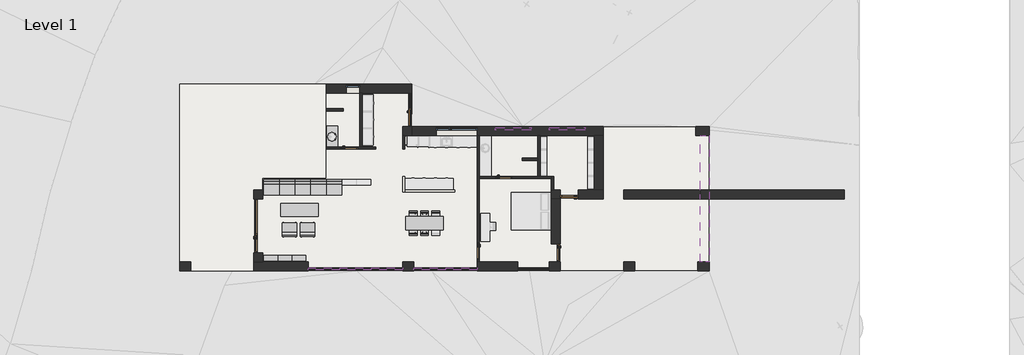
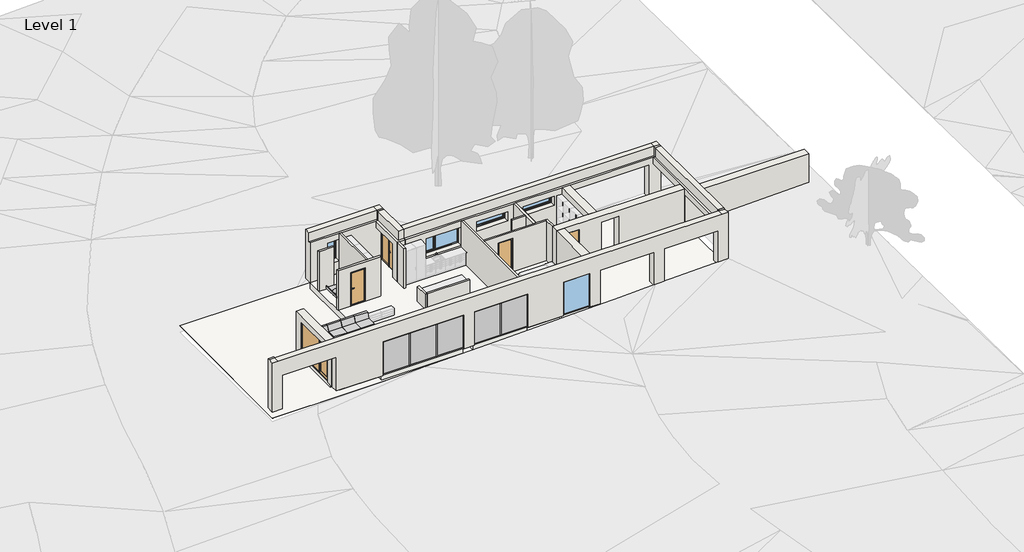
# One storey, part 1 of 2: 21 walls, 18 furniture elements, 17 members, 7 doors, 5 plates, 5 windows, 2 slabs.
"""IFC4 building model written with IfcOpenShell, lengths in millimetres."""

from ifc_helpers import new_model, si_unit, frame, origin, origin_with_axes, place, context, project, spatial, polyline, outline, extrude, faceted_brep, transform, mapped, element, save
from components import door_1800x2200_mm_7a9b0269, ext_door_window_assembly_glass_2880x2200_mm_8e24472b, ext_single_flush_out_glass_960x2200_mm_6190eac3, ext_single_flush1_960x2200_mm_7c25dc53, int_single_flush1_900x2200_mm_083ae047, furniture_c7f23c1d, furniture_56f83323, furniture_641ccf10, furniture_2000_x_700mm_040c55c5, furniture_2000_x_700mm_sofa_1e09125b, furniture_750_x_300_x_450mm_957a72fb, couch_straight_module_couch_straight_module_fcc397ea, vanity_counter_top_w_round_sink_hole_600mm_depth_d806985c, rectangular_mullion_exterior_50x115mm_b31c03e9, rectangular_mullion_exterior_50x115mm_eaa21abb, rectangular_mullion_exterior_50x115mm_593a1a29, system_panel_exterior_glass_22mm_baca3ab9, system_panel_exterior_glass_22mm_266c4f93, fixed_1680x2200_mm_e3bfc0e5, single_light_top_hinged_1920x600_dd11e4f9, single_light_720x1400_mm_50d61ae6, window_assembly_individual_2160x1200_mm_ef5d95c3

model = new_model("IFC4")

# Units and contexts
model_context = context("Model", 3, world=origin())
ifc_project = project(units=[si_unit("LENGTHUNIT", "METRE", prefix="MILLI")], contexts=[model_context])

# Site, building, storey
site = spatial("IfcSite", under=ifc_project)
building = spatial("IfcBuilding", under=site)
storey = spatial("IfcBuildingStorey", under=building, Name="Level 1", Elevation=0.0)

# Doors
placement = place(None, origin())
door_1800x2200_mm_shape = door_1800x2200_mm_7a9b0269(model_context)
element("IfcDoor", 1, ObjectType="Ext. Door inw. Window Assembly : 1800x2200 mm", at=placement, inside=storey, context=model_context, shape_type="MappedRepresentation", body=[
    mapped(door_1800x2200_mm_shape, transform((12120.0, 8580.0, 0.0), x_axis=(0.0, -1.0, 0.0), y_axis=(1.0, 0.0, 0.0), z_axis=(0.0, 0.0, 1.0))),
])
ext_door_window_assembly_glass_2880x2200_mm_shape = ext_door_window_assembly_glass_2880x2200_mm_8e24472b(model_context)
element("IfcDoor", 2, ObjectType="Ext. Door Window Assembly - Glass : 2880x2200 mm", at=placement, inside=storey, context=model_context, shape_type="MappedRepresentation", body=[
    mapped(ext_door_window_assembly_glass_2880x2200_mm_shape, transform((4200.0, 2400.0, 0.0), x_axis=(0.0, -1.0, 0.0), y_axis=(1.0, 0.0, 0.0), z_axis=(0.0, 0.0, 1.0))),
])
ext_single_flush_out_glass_960x2200_mm_shape = ext_single_flush_out_glass_960x2200_mm_6190eac3(model_context)
element("IfcDoor", 3, ObjectType="Ext. Single-Flush out - Glass : 960x2200 mm", at=placement, inside=storey, context=model_context, shape_type="MappedRepresentation", body=[
    mapped(ext_single_flush_out_glass_960x2200_mm_shape, transform((20040.0, 960.0, 0.0), x_axis=(0.0, -1.0, 0.0), y_axis=(1.0, 0.0, 0.0), z_axis=(0.0, 0.0, 1.0))),
])
ext_single_flush1_960x2200_mm_shape = ext_single_flush1_960x2200_mm_7c25dc53(model_context)
element("IfcDoor", 4, ObjectType="Ext. Single-Flush1 : 960x2200 mm", at=placement, inside=storey, context=model_context, shape_type="MappedRepresentation", body=[
    mapped(ext_single_flush1_960x2200_mm_shape, transform((20760.0, 4080.0, 0.0), x_axis=(-1.0, 0.0, 0.0), y_axis=(0.0, -1.0, 0.0), z_axis=(0.0, 0.0, 1.0))),
])
int_single_flush1_900x2200_mm_shape = int_single_flush1_900x2200_mm_083ae047(model_context)
element("IfcDoor", 5, ObjectType="Int. Single-Flush1 : 900x2200 mm", at=placement, inside=storey, context=model_context, shape_type="MappedRepresentation", body=[
    mapped(int_single_flush1_900x2200_mm_shape, transform((9030.0, 6540.0, 0.0), x_axis=(1.0, 0.0, 0.0), y_axis=(0.0, 1.0, 0.0), z_axis=(0.0, 0.0, 1.0))),
])
element("IfcDoor", 6, ObjectType="Int. Single-Flush1 : 900x2200 mm", at=placement, inside=storey, context=model_context, shape_type="MappedRepresentation", body=[
    mapped(int_single_flush1_900x2200_mm_shape, transform((17250.0, 4980.0, 0.0), x_axis=(1.0, 0.0, 0.0), y_axis=(0.0, 1.0, 0.0), z_axis=(0.0, 0.0, 1.0))),
])
element("IfcDoor", 7, ObjectType="Int. Single-Flush1 : 900x2200 mm", at=placement, inside=storey, context=model_context, shape_type="MappedRepresentation", body=[
    mapped(int_single_flush1_900x2200_mm_shape, transform((15900.0, 1050.0, 0.0), x_axis=(0.0, -1.0, 0.0), y_axis=(1.0, 0.0, 0.0), z_axis=(0.0, 0.0, 1.0))),
])

# Furniture
furniture_shape = furniture_c7f23c1d(model_context)
element("IfcFurniture", 8, ObjectType="Armchair - Barcelona : Armchair - Barcelona", at=placement, inside=storey, context=model_context, shape_type="MappedRepresentation", body=[
    mapped(furniture_shape, transform((5860.0, 1780.0, 0.0), x_axis=(-1.0000000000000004, 0.0, 0.0), y_axis=(0.0, -1.0000000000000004, 0.0), z_axis=(0.0, 0.0, 1.0))),
])
element("IfcFurniture", 9, ObjectType="Armchair - Barcelona : Armchair - Barcelona", at=placement, inside=storey, context=model_context, shape_type="MappedRepresentation", body=[
    mapped(furniture_shape, transform((6820.0, 1780.0, 0.0), x_axis=(-1.0, 0.0, 0.0), y_axis=(0.0, -1.0, 0.0), z_axis=(0.0, 0.0, 1.0))),
])
furniture_2_shape = furniture_56f83323(model_context)
element("IfcFurniture", 10, ObjectType="Chair - Allround : Chair - allround", at=placement, inside=storey, context=model_context, shape_type="MappedRepresentation", body=[
    mapped(furniture_2_shape, transform((13040.0, 2890.0, 0.0), x_axis=(1.0, 0.0, 0.0), y_axis=(0.0, 1.0, 0.0), z_axis=(0.0, 0.0, 1.0))),
])
element("IfcFurniture", 11, ObjectType="Chair - Allround : Chair - allround", at=placement, inside=storey, context=model_context, shape_type="MappedRepresentation", body=[
    mapped(furniture_2_shape, transform((12440.0, 2890.0, 0.0), x_axis=(1.0, 0.0, 0.0), y_axis=(0.0, 1.0, 0.0), z_axis=(0.0, 0.0, 1.0))),
])
furniture_3_shape = furniture_641ccf10(model_context)
element("IfcFurniture", 12, ObjectType="Chair - Allround : Chair - allround", at=placement, inside=storey, context=model_context, shape_type="MappedRepresentation", body=[
    mapped(furniture_3_shape, transform((13640.0, 2890.0, 0.0), x_axis=(-1.0, 0.0, 0.0), y_axis=(0.0, -1.0, 0.0), z_axis=(0.0, 0.0, 1.0))),
])
element("IfcFurniture", 13, ObjectType="Chair - Allround : Chair - allround", at=placement, inside=storey, context=model_context, shape_type="MappedRepresentation", body=[
    mapped(furniture_3_shape, transform((13040.0, 2190.0, 0.0), x_axis=(1.0, 0.0, 0.0), y_axis=(0.0, 1.0, 0.0), z_axis=(0.0, 0.0, 1.0))),
])
element("IfcFurniture", 14, ObjectType="Chair - Allround : Chair - allround", at=placement, inside=storey, context=model_context, shape_type="MappedRepresentation", body=[
    mapped(furniture_3_shape, transform((12440.0, 2190.0, 0.0), x_axis=(1.0, 0.0, 0.0), y_axis=(0.0, 1.0, 0.0), z_axis=(0.0, 0.0, 1.0))),
])
furniture_2000_x_700mm_shape = furniture_2000_x_700mm_040c55c5(model_context)
element("IfcFurniture", 15, ObjectType="Table - Allround : 2000 x 700mm", at=placement, inside=storey, context=model_context, shape_type="MappedRepresentation", body=[
    mapped(furniture_2000_x_700mm_shape, transform((13040.0, 2540.0, 0.0), x_axis=(1.0, 0.0, 0.0), y_axis=(0.0, 1.0, 0.0), z_axis=(0.0, 0.0, 1.0))),
])
furniture_2000_x_700mm_sofa_shape = furniture_2000_x_700mm_sofa_1e09125b(model_context)
element("IfcFurniture", 16, ObjectType="Table - Allround : 2000 x 700mm Sofa", at=placement, inside=storey, context=model_context, shape_type="MappedRepresentation", body=[
    mapped(furniture_2000_x_700mm_sofa_shape, transform((6380.0, 3240.0, 0.0), x_axis=(1.0, 0.0, 0.0), y_axis=(0.0, 1.0, 0.0), z_axis=(0.0, 0.0, 1.0))),
])
furniture_750_x_300_x_450mm_shape = furniture_750_x_300_x_450mm_957a72fb(model_context)
element("IfcFurniture", 17, ObjectType="Shelving (Floor) - Allround : 750 x 300 x 450mm", at=placement, inside=storey, context=model_context, shape_type="MappedRepresentation", body=[
    mapped(furniture_750_x_300_x_450mm_shape, transform((4855.0, 974.8, 0.0), x_axis=(1.0, 0.0, 0.0), y_axis=(0.0, 1.0, 0.0), z_axis=(0.0, 0.0, 1.0))),
])
element("IfcFurniture", 18, ObjectType="Shelving (Floor) - Allround : 750 x 300 x 450mm", at=placement, inside=storey, context=model_context, shape_type="MappedRepresentation", body=[
    mapped(furniture_750_x_300_x_450mm_shape, transform((5605.0, 974.8, 0.0), x_axis=(1.0, 0.0, 0.0), y_axis=(0.0, 1.0, 0.0), z_axis=(0.0, 0.0, 1.0))),
])
element("IfcFurniture", 19, ObjectType="Shelving (Floor) - Allround : 750 x 300 x 450mm", at=placement, inside=storey, context=model_context, shape_type="MappedRepresentation", body=[
    mapped(furniture_750_x_300_x_450mm_shape, transform((6355.0, 974.8, 0.0), x_axis=(1.0, 0.0, 0.0), y_axis=(0.0, 1.0, 0.0), z_axis=(0.0, 0.0, 1.0))),
])
couch_straight_module_couch_straight_module_shape = couch_straight_module_couch_straight_module_fcc397ea(model_context)
element("IfcFurniture", 20, ObjectType="Couch - Straight Module : Couch straight module", at=placement, inside=storey, context=model_context, shape_type="MappedRepresentation", body=[
    mapped(couch_straight_module_couch_straight_module_shape, transform((4480.0, 4050.0, 0.0), x_axis=(1.0, 0.0, 0.0), y_axis=(0.0, 1.0, 0.0), z_axis=(0.0, 0.0, 1.0))),
])
element("IfcFurniture", 21, ObjectType="Couch - Straight Module : Couch straight module", at=placement, inside=storey, context=model_context, shape_type="MappedRepresentation", body=[
    mapped(couch_straight_module_couch_straight_module_shape, transform((5310.0, 4050.0, 0.0), x_axis=(1.0, 0.0, 0.0), y_axis=(0.0, 1.0, 0.0), z_axis=(0.0, 0.0, 1.0))),
])
element("IfcFurniture", 22, ObjectType="Couch - Straight Module : Couch straight module", at=placement, inside=storey, context=model_context, shape_type="MappedRepresentation", body=[
    mapped(couch_straight_module_couch_straight_module_shape, transform((6140.0, 4050.0, 0.0), x_axis=(1.0, 0.0, 0.0), y_axis=(0.0, 1.0, 0.0), z_axis=(0.0, 0.0, 1.0))),
])
element("IfcFurniture", 23, ObjectType="Couch - Straight Module : Couch straight module", at=placement, inside=storey, context=model_context, shape_type="MappedRepresentation", body=[
    mapped(couch_straight_module_couch_straight_module_shape, transform((6970.0, 4050.0, 0.0), x_axis=(1.0, 0.0, 0.0), y_axis=(0.0, 1.0, 0.0), z_axis=(0.0, 0.0, 1.0))),
])
element("IfcFurniture", 24, ObjectType="Couch - Straight Module : Couch straight module", at=placement, inside=storey, context=model_context, shape_type="MappedRepresentation", body=[
    mapped(couch_straight_module_couch_straight_module_shape, transform((7800.0, 4050.0, 0.0), x_axis=(1.0, 0.0, 0.0), y_axis=(0.0, 1.0, 0.0), z_axis=(0.0, 0.0, 1.0))),
])
vanity_counter_top_w_round_sink_hole_600mm_depth_shape = vanity_counter_top_w_round_sink_hole_600mm_depth_d806985c(model_context)
element("IfcFurniture", 25, ObjectType="Vanity Counter Top w. Round Sink Hole : 600mm Depth", at=placement, inside=storey, context=model_context, shape_type="MappedRepresentation", body=[
    mapped(vanity_counter_top_w_round_sink_hole_600mm_depth_shape, transform((7800.0, 7927.4622951, 0.0), x_axis=(0.0, 1.0000000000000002, 0.0), y_axis=(-1.0000000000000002, 0.0, 0.0), z_axis=(0.0, 0.0, 1.0))),
])

# Members
rectangular_mullion_exterior_50x115mm_shape = rectangular_mullion_exterior_50x115mm_b31c03e9(model_context)
element("IfcMember", 26, ObjectType="Rectangular Mullion : Exterior - 50x115mm", at=placement, inside=storey, context=model_context, shape_type="MappedRepresentation", body=[
    mapped(rectangular_mullion_exterior_50x115mm_shape, transform((6840.0, 50.0, 2200.0), x_axis=(0.0, 0.0, 1.0), y_axis=(0.0, 1.0, 0.0), z_axis=(-1.0, 0.0, 0.0))),
])
element("IfcMember", 27, ObjectType="Rectangular Mullion : Exterior - 50x115mm", at=placement, inside=storey, context=model_context, shape_type="MappedRepresentation", body=[
    mapped(rectangular_mullion_exterior_50x115mm_shape, transform((12480.0, 50.0, 2200.0), x_axis=(0.0, 0.0, 1.0), y_axis=(0.0, 1.0, 0.0), z_axis=(-1.0, 0.0, 0.0))),
])
element("IfcMember", 28, ObjectType="Rectangular Mullion : Exterior - 50x115mm", at=placement, inside=storey, context=model_context, shape_type="MappedRepresentation", body=[
    mapped(rectangular_mullion_exterior_50x115mm_shape, transform((11880.0, 50.0, 0.0), x_axis=(0.0, 0.0, -1.0), y_axis=(0.0, 1.0, 0.0), z_axis=(1.0, 0.0, 0.0))),
])
element("IfcMember", 29, ObjectType="Rectangular Mullion : Exterior - 50x115mm", at=placement, inside=storey, context=model_context, shape_type="MappedRepresentation", body=[
    mapped(rectangular_mullion_exterior_50x115mm_shape, transform((15840.0, 50.0, 0.0), x_axis=(0.0, 0.0, -1.0), y_axis=(0.0, 1.0, 0.0), z_axis=(1.0, 0.0, 0.0))),
])
rectangular_mullion_exterior_50x115mm_2_shape = rectangular_mullion_exterior_50x115mm_eaa21abb(model_context)
element("IfcMember", 30, ObjectType="Rectangular Mullion : Exterior - 50x115mm", at=placement, inside=storey, context=model_context, shape_type="MappedRepresentation", body=[
    mapped(rectangular_mullion_exterior_50x115mm_2_shape, transform((8520.0, 50.0, 50.0), x_axis=(-1.0, 0.0, 0.0), y_axis=(0.0, 1.0, 0.0), z_axis=(0.0, 0.0, -1.0))),
])
element("IfcMember", 31, ObjectType="Rectangular Mullion : Exterior - 50x115mm", at=placement, inside=storey, context=model_context, shape_type="MappedRepresentation", body=[
    mapped(rectangular_mullion_exterior_50x115mm_2_shape, transform((10200.0, 50.0, 50.0), x_axis=(-1.0, 0.0, 0.0), y_axis=(0.0, 1.0, 0.0), z_axis=(0.0, 0.0, -1.0))),
])
element("IfcMember", 32, ObjectType="Rectangular Mullion : Exterior - 50x115mm", at=placement, inside=storey, context=model_context, shape_type="MappedRepresentation", body=[
    mapped(rectangular_mullion_exterior_50x115mm_2_shape, transform((14160.0, 50.0, 50.0), x_axis=(-1.0, 0.0, 0.0), y_axis=(0.0, 1.0, 0.0), z_axis=(0.0, 0.0, -1.0))),
])
element("IfcMember", 33, ObjectType="Rectangular Mullion : Exterior - 50x115mm", at=placement, inside=storey, context=model_context, shape_type="MappedRepresentation", body=[
    mapped(rectangular_mullion_exterior_50x115mm_shape, transform((8520.0, 50.0, 0.0), x_axis=(0.0, 0.0, -1.0), y_axis=(0.0, 1.0, 0.0), z_axis=(1.0, 0.0, 0.0))),
])
element("IfcMember", 34, ObjectType="Rectangular Mullion : Exterior - 50x115mm", at=placement, inside=storey, context=model_context, shape_type="MappedRepresentation", body=[
    mapped(rectangular_mullion_exterior_50x115mm_shape, transform((14160.0, 50.0, 0.0), x_axis=(0.0, 0.0, -1.0), y_axis=(0.0, 1.0, 0.0), z_axis=(1.0, 0.0, 0.0))),
])
element("IfcMember", 35, ObjectType="Rectangular Mullion : Exterior - 50x115mm", at=placement, inside=storey, context=model_context, shape_type="MappedRepresentation", body=[
    mapped(rectangular_mullion_exterior_50x115mm_shape, transform((10200.0, 50.0, 0.0), x_axis=(0.0, 0.0, -1.0), y_axis=(0.0, 1.0, 0.0), z_axis=(1.0, 0.0, 0.0))),
])
element("IfcMember", 36, ObjectType="Rectangular Mullion : Exterior - 50x115mm", at=placement, inside=storey, context=model_context, shape_type="MappedRepresentation", body=[
    mapped(rectangular_mullion_exterior_50x115mm_shape, transform((8520.0, 50.0, 2200.0), x_axis=(0.0, 0.0, 1.0), y_axis=(0.0, 1.0, 0.0), z_axis=(-1.0, 0.0, 0.0))),
])
element("IfcMember", 37, ObjectType="Rectangular Mullion : Exterior - 50x115mm", at=placement, inside=storey, context=model_context, shape_type="MappedRepresentation", body=[
    mapped(rectangular_mullion_exterior_50x115mm_shape, transform((10200.0, 50.0, 2200.0), x_axis=(0.0, 0.0, 1.0), y_axis=(0.0, 1.0, 0.0), z_axis=(-1.0, 0.0, 0.0))),
])
element("IfcMember", 38, ObjectType="Rectangular Mullion : Exterior - 50x115mm", at=placement, inside=storey, context=model_context, shape_type="MappedRepresentation", body=[
    mapped(rectangular_mullion_exterior_50x115mm_shape, transform((14160.0, 50.0, 2200.0), x_axis=(0.0, 0.0, 1.0), y_axis=(0.0, 1.0, 0.0), z_axis=(-1.0, 0.0, 0.0))),
])
rectangular_mullion_exterior_50x115mm_3_shape = rectangular_mullion_exterior_50x115mm_593a1a29(model_context)
element("IfcMember", 39, ObjectType="Rectangular Mullion : Exterior - 50x115mm", at=placement, inside=storey, context=model_context, shape_type="MappedRepresentation", body=[
    mapped(rectangular_mullion_exterior_50x115mm_3_shape, transform((11880.0, 50.0, 2150.0), x_axis=(1.0, 0.0, 0.0), y_axis=(0.0, 1.0, 0.0), z_axis=(0.0, 0.0, 1.0))),
])
element("IfcMember", 40, ObjectType="Rectangular Mullion : Exterior - 50x115mm", at=placement, inside=storey, context=model_context, shape_type="MappedRepresentation", body=[
    mapped(rectangular_mullion_exterior_50x115mm_3_shape, transform((15840.0, 50.0, 2150.0), x_axis=(1.0, 0.0, 0.0), y_axis=(0.0, 1.0, 0.0), z_axis=(0.0, 0.0, 1.0))),
])
element("IfcMember", 41, ObjectType="Rectangular Mullion : Exterior - 50x115mm", at=placement, inside=storey, context=model_context, shape_type="MappedRepresentation", body=[
    mapped(rectangular_mullion_exterior_50x115mm_3_shape, transform((6840.0, 50.0, 50.0), x_axis=(-1.0, 0.0, 0.0), y_axis=(0.0, 1.0, 0.0), z_axis=(0.0, 0.0, -1.0))),
])
element("IfcMember", 42, ObjectType="Rectangular Mullion : Exterior - 50x115mm", at=placement, inside=storey, context=model_context, shape_type="MappedRepresentation", body=[
    mapped(rectangular_mullion_exterior_50x115mm_3_shape, transform((12480.0, 50.0, 50.0), x_axis=(-1.0, 0.0, 0.0), y_axis=(0.0, 1.0, 0.0), z_axis=(0.0, 0.0, -1.0))),
])

# Plates
system_panel_exterior_glass_22mm_shape = system_panel_exterior_glass_22mm_baca3ab9(model_context)
element("IfcPlate", 43, ObjectType="System Panel : Exterior - Glass 22mm", at=placement, inside=storey, context=model_context, shape_type="MappedRepresentation", body=[
    mapped(system_panel_exterior_glass_22mm_shape, transform((11027.5, 50.0, 50.0), x_axis=(-1.0, 0.0, 0.0), y_axis=(0.0, -1.0, 0.0), z_axis=(0.0, 0.0, 1.0))),
])
element("IfcPlate", 44, ObjectType="System Panel : Exterior - Glass 22mm", at=placement, inside=storey, context=model_context, shape_type="MappedRepresentation", body=[
    mapped(system_panel_exterior_glass_22mm_shape, transform((7692.5, 50.0, 50.0), x_axis=(-1.0, 0.0, 0.0), y_axis=(0.0, -1.0, 0.0), z_axis=(0.0, 0.0, 1.0))),
])
element("IfcPlate", 45, ObjectType="System Panel : Exterior - Glass 22mm", at=placement, inside=storey, context=model_context, shape_type="MappedRepresentation", body=[
    mapped(system_panel_exterior_glass_22mm_shape, transform((14987.5, 50.0, 50.0), x_axis=(-1.0, 0.0, 0.0), y_axis=(0.0, -1.0, 0.0), z_axis=(0.0, 0.0, 1.0))),
])
element("IfcPlate", 46, ObjectType="System Panel : Exterior - Glass 22mm", at=placement, inside=storey, context=model_context, shape_type="MappedRepresentation", body=[
    mapped(system_panel_exterior_glass_22mm_shape, transform((13332.5, 50.0, 50.0), x_axis=(-1.0, 0.0, 0.0), y_axis=(0.0, -1.0, 0.0), z_axis=(0.0, 0.0, 1.0))),
])
system_panel_exterior_glass_22mm_2_shape = system_panel_exterior_glass_22mm_266c4f93(model_context)
element("IfcPlate", 47, ObjectType="System Panel : Exterior - Glass 22mm", at=placement, inside=storey, context=model_context, shape_type="MappedRepresentation", body=[
    mapped(system_panel_exterior_glass_22mm_2_shape, transform((9360.0, 50.0, 50.0), x_axis=(-1.0, 0.0, 0.0), y_axis=(0.0, -1.0, 0.0), z_axis=(0.0, 0.0, 1.0))),
])

# Slabs
element("IfcSlab", 48, ObjectType="Generic - 400mm (Ground)", at=placement, inside=storey, context=model_context, shape_type="SweptSolid", body=[
    extrude(outline(polyline([(12195.0, 9480.0), (12195.0, 7680.0), (11880.0, 7680.0), (11880.0, 7200.0), (22080.0, 7200.0), (22080.0, 4320.0), (21240.0, 4320.0), (21240.0, 4005.0), (20280.0, 4005.0), (20280.0, 4320.0), (19800.0, 4320.0), (19800.0, 1440.0), (20115.0, 1440.0), (20115.0, 480.0), (19680.0, 480.0), (19680.0, 165.0), (18000.0, 165.0), (18000.0, 480.0), (15840.0, 480.0), (15840.0, 165.0), (12480.0, 165.0), (12480.0, 480.0), (11880.0, 480.0), (11880.0, 165.0), (6840.0, 165.0), (6840.0, 480.0), (4440.0, 480.0), (4440.0, 960.0), (4125.0, 960.0), (4125.0, 3840.0), (4440.0, 3840.0), (4440.0, 4920.0), (7800.0, 4920.0), (7800.0, 9480.0), (12195.0, 9480.0)])), frame((0.0, 0.0, -400.0), z_axis=(0.0, 0.0, 1.0), x_axis=(1.0, 0.0, 0.0)), (0.0, 0.0, 1.0), 400.0),
])
element("IfcSlab", 49, ObjectType="Generic Pad - 2mm", at=placement, inside=storey, context=model_context, shape_type="SweptSolid", body=[
    extrude(outline(polyline([(12360.0, 9960.0), (12360.0, 7680.0), (28200.0, 7680.0), (28200.0, 4320.0), (35400.0, 4320.0), (35400.0, 3840.0), (28200.0, 3840.0), (28200.0, 0.0), (0.0, 0.0), (0.0, 9960.0), (12360.0, 9960.0)])), frame((0.0, 0.0, -400.0), z_axis=(0.0, 0.0, 1.0), x_axis=(1.0, 0.0, 0.0)), (0.0, 0.0, 1.0), 2.0),
])

# Walls
element("IfcWall", 50, ObjectType="Generic - 120mm (Interior)", at=placement, inside=storey, context=model_context, shape_type="Brep", body=[
    faceted_brep([(9720.0, 6600.0, 0.0), (9720.0, 9480.0, 0.0), (9720.0, 9480.0, 2600.0), (9720.0, 6600.0, 2600.0), (9600.0, 6600.0, 0.0), (9600.0, 6600.0, 2600.0), (9600.0, 9480.0, 2600.0), (9600.0, 9480.0, 2200.0), (9600.0, 9480.0, 800.0), (9600.0, 9480.0, 0.0)], [[[0, 1, 2, 3]], [[4, 5, 6, 7, 8, 9]], [[1, 0, 4, 9]], [[0, 3, 5, 4]], [[2, 1, 9, 8, 7, 6]], [[3, 2, 6, 5]]]),
])
element("IfcWall", 51, ObjectType="Generic - 120mm (Interior)", at=placement, inside=storey, context=model_context, shape_type="Brep", body=[
    faceted_brep([(15960.0, 7200.0, 0.0), (15960.0, 7200.0, 2600.0), (15960.0, 5040.0, 2600.0), (15960.0, 4920.0, 2600.0), (15960.0, 480.0, 2600.0), (15960.0, 480.0, 0.0), (15960.0, 600.0, 0.0), (15960.0, 600.0, 2200.0), (15960.0, 1500.0, 2200.0), (15960.0, 1500.0, 0.0), (15960.0, 4920.0, 0.0), (15960.0, 5040.0, 0.0), (15840.0, 7200.0, 2600.0), (15840.0, 7200.0, 2200.0), (15840.0, 7200.0, 1000.0), (15840.0, 7200.0, 0.0), (15840.0, 1500.0, 0.0), (15840.0, 1500.0, 2200.0), (15840.0, 600.0, 2200.0), (15840.0, 600.0, 0.0), (15840.0, 480.0, 0.0), (15840.0, 480.0, 2200.0), (15840.0, 480.0, 2600.0)], [[[0, 1, 2, 3, 4, 5, 6, 7, 8, 9, 10, 11]], [[12, 13, 14, 15, 16, 17, 18, 19, 20, 21, 22]], [[5, 20, 19, 6]], [[15, 0, 11, 10, 9, 16]], [[1, 0, 15, 14, 13, 12]], [[5, 4, 22, 21, 20]], [[18, 7, 6, 19]], [[7, 18, 17, 8]], [[8, 17, 16, 9]], [[4, 3, 2, 1, 12, 22]]]),
])
element("IfcWall", 52, ObjectType="Generic - 120mm (Interior)", at=placement, inside=storey, context=model_context, shape_type="Brep", body=[
    faceted_brep([(19920.0, 4320.0, 0.0), (19920.0, 5040.0, 0.0), (19920.0, 5040.0, 2600.0), (19920.0, 4320.0, 2600.0), (19800.0, 4320.0, 0.0), (19800.0, 4320.0, 2600.0), (19800.0, 4920.0, 2600.0), (19800.0, 5040.0, 2600.0), (19800.0, 5040.0, 0.0), (19800.0, 4920.0, 0.0)], [[[0, 1, 2, 3]], [[4, 5, 6, 7, 8, 9]], [[1, 0, 4, 9, 8]], [[2, 1, 8, 7]], [[0, 3, 5, 4]], [[3, 2, 7, 6, 5]]]),
])
element("IfcWall", 53, ObjectType="Generic - 120mm (Interior)", at=placement, inside=storey, context=model_context, shape_type="Brep", body=[
    faceted_brep([(19800.0, 5040.0, 2600.0), (19800.0, 5040.0, 0.0), (19200.0, 5040.0, 0.0), (19080.0, 5040.0, 0.0), (17700.0, 5040.0, 0.0), (17700.0, 5040.0, 2200.0), (16800.0, 5040.0, 2200.0), (16800.0, 5040.0, 0.0), (15960.0, 5040.0, 0.0), (15960.0, 5040.0, 2600.0), (19080.0, 5040.0, 2600.0), (19200.0, 5040.0, 2600.0), (19800.0, 4920.0, 0.0), (19800.0, 4920.0, 2600.0), (15960.0, 4920.0, 2600.0), (15960.0, 4920.0, 0.0), (16800.0, 4920.0, 0.0), (16800.0, 4920.0, 2200.0), (17700.0, 4920.0, 2200.0), (17700.0, 4920.0, 0.0)], [[[0, 1, 2, 3, 4, 5, 6, 7, 8, 9, 10, 11]], [[12, 13, 14, 15, 16, 17, 18, 19]], [[1, 12, 19, 4, 3, 2]], [[15, 8, 7, 16]], [[1, 0, 13, 12]], [[9, 8, 15, 14]], [[18, 5, 4, 19]], [[5, 18, 17, 6]], [[6, 17, 16, 7]], [[0, 11, 10, 9, 14, 13]]]),
])
element("IfcWall", 54, ObjectType="Generic - 120mm (Interior)", at=placement, inside=storey, context=model_context, shape_type="Brep", body=[
    faceted_brep([(19200.0, 5040.0, 0.0), (19200.0, 7200.0, 0.0), (19200.0, 7200.0, 2600.0), (19200.0, 5040.0, 2600.0), (19080.0, 5040.0, 0.0), (19080.0, 5040.0, 2600.0), (19080.0, 5880.0, 2600.0), (19080.0, 6000.0, 2600.0), (19080.0, 7200.0, 2600.0), (19080.0, 7200.0, 0.0), (19080.0, 6000.0, 0.0), (19080.0, 5880.0, 0.0)], [[[0, 1, 2, 3]], [[4, 5, 6, 7, 8, 9, 10, 11]], [[1, 0, 4, 11, 10, 9]], [[0, 3, 5, 4]], [[2, 1, 9, 8]], [[3, 2, 8, 7, 6, 5]]]),
])
element("IfcWall", 55, ObjectType="Generic - 120mm (Interior)", at=placement, inside=storey, context=model_context, shape_type="SweptSolid", body=[
    extrude(outline(polyline([(18240.0, 6000.0), (19080.0, 6000.0), (19080.0, 5880.0), (18240.0, 5880.0), (18240.0, 6000.0)])), origin_with_axes(), (0.0, 0.0, 1.0), 2600.0),
])
element("IfcWall", 56, ObjectType="Generic - 120mm (Interior)", at=placement, inside=storey, context=model_context, shape_type="SweptSolid", body=[
    extrude(outline(polyline([(8720.0, 8520.0), (7800.0, 8520.0), (7800.0, 8640.0), (8720.0, 8640.0), (8720.0, 8520.0)])), origin_with_axes(), (0.0, 0.0, 1.0), 2600.0),
])
element("IfcWall", 57, ObjectType="Generic - 120mm (Interior)", at=placement, inside=storey, context=model_context, shape_type="Brep", body=[
    faceted_brep([(11880.0, 5040.0, 0.0), (11880.0, 4200.0, 0.0), (11880.0, 4200.0, 1000.0), (11880.0, 5040.0, 1000.0), (12000.0, 5040.0, 0.0), (12000.0, 5040.0, 1000.0), (12000.0, 4320.0, 1000.0), (12000.0, 4200.0, 1000.0), (12000.0, 4200.0, 0.0), (12000.0, 4320.0, 0.0)], [[[0, 1, 2, 3]], [[4, 5, 6, 7, 8, 9]], [[1, 0, 4, 9, 8]], [[3, 2, 7, 6, 5]], [[0, 3, 5, 4]], [[2, 1, 8, 7]]]),
])
element("IfcWall", 58, ObjectType="Generic - 120mm (Interior)", at=placement, inside=storey, context=model_context, shape_type="SweptSolid", body=[
    extrude(outline(polyline([(14640.0, 4200.0), (12000.0, 4200.0), (12000.0, 4320.0), (14640.0, 4320.0), (14640.0, 4200.0)])), origin_with_axes(), (0.0, 0.0, 1.0), 1000.0),
])
element("IfcWall", 59, ObjectType="Generic - 120mm (Interior)", at=placement, inside=storey, context=model_context, shape_type="SweptSolid", body=[
    extrude(outline(polyline([(11880.0, 6480.0), (11880.0, 7200.0), (12000.0, 7200.0), (12000.0, 6480.0), (11880.0, 6480.0)])), origin_with_axes(), (0.0, 0.0, 1.0), 2600.0),
])
element("IfcWall", 60, ObjectType="Generic - 120mm (Interior)", at=placement, inside=storey, context=model_context, shape_type="Brep", body=[
    faceted_brep([(10440.0, 6480.0, 0.0), (10440.0, 6480.0, 2600.0), (7800.0, 6480.0, 2600.0), (7800.0, 6480.0, 0.0), (8580.0, 6480.0, 0.0), (8580.0, 6480.0, 2200.0), (9480.0, 6480.0, 2200.0), (9480.0, 6480.0, 0.0), (10440.0, 6600.0, 2600.0), (10440.0, 6600.0, 0.0), (9720.0, 6600.0, 0.0), (9600.0, 6600.0, 0.0), (9480.0, 6600.0, 0.0), (9480.0, 6600.0, 2200.0), (8580.0, 6600.0, 2200.0), (8580.0, 6600.0, 0.0), (7800.0, 6600.0, 0.0), (7800.0, 6600.0, 2600.0), (9600.0, 6600.0, 2600.0), (9720.0, 6600.0, 2600.0)], [[[0, 1, 2, 3, 4, 5, 6, 7]], [[8, 9, 10, 11, 12, 13, 14, 15, 16, 17, 18, 19]], [[9, 0, 7, 12, 11, 10]], [[3, 16, 15, 4]], [[1, 0, 9, 8]], [[2, 1, 8, 19, 18, 17]], [[6, 13, 12, 7]], [[13, 6, 5, 14]], [[14, 5, 4, 15]], [[3, 2, 17, 16]]]),
])
element("IfcWall", 61, ObjectType="Generic - 480mm (Exterior)", at=placement, inside=storey, context=model_context, shape_type="Brep", body=[
    faceted_brep([(11880.0, 7200.0, 0.0), (11880.0, 7200.0, 2600.0), (11880.0, 9480.0, 2600.0), (11880.0, 9480.0, 2200.0), (11880.0, 7680.0, 2200.0), (11880.0, 7680.0, 0.0), (12360.0, 7200.0, 2600.0), (12360.0, 7200.0, 0.0), (12360.0, 7680.0, 0.0), (12360.0, 7680.0, 2200.0), (12360.0, 9480.0, 2200.0), (12360.0, 9480.0, 3200.0), (12360.0, 7680.0, 3200.0), (12360.0, 7320.0, 3200.0), (12360.0, 7320.0, 2600.0), (12000.0, 9480.0, 3200.0), (12000.0, 9480.0, 2600.0), (12000.0, 7200.0, 2600.0), (12000.0, 7320.0, 2600.0), (12000.0, 7320.0, 3200.0)], [[[0, 1, 2, 3, 4, 5]], [[6, 7, 8, 9, 10, 11, 12, 13, 14]], [[7, 0, 5, 8]], [[15, 11, 10, 3, 2, 16]], [[4, 9, 8, 5]], [[9, 4, 3, 10]], [[1, 0, 7, 6, 17]], [[15, 16, 18, 19]], [[11, 15, 19, 13, 12]], [[13, 19, 18, 14]], [[16, 2, 1, 17, 6, 14, 18]]]),
])
element("IfcWall", 62, ObjectType="Generic - 480mm (Exterior)", at=placement, inside=storey, context=model_context, shape_type="Brep", body=[
    faceted_brep([(12360.0, 7200.0, 0.0), (15840.0, 7200.0, 0.0), (15960.0, 7200.0, 0.0), (19080.0, 7200.0, 0.0), (19200.0, 7200.0, 0.0), (22080.0, 7200.0, 0.0), (22560.0, 7200.0, 0.0), (22560.0, 7200.0, 2200.0), (27480.0, 7200.0, 2200.0), (27480.0, 7200.0, 0.0), (28200.0, 7200.0, 0.0), (28200.0, 7200.0, 2200.0), (28200.0, 7200.0, 3200.0), (27840.0, 7200.0, 3200.0), (27840.0, 7200.0, 2600.0), (27720.0, 7200.0, 2600.0), (22560.0, 7200.0, 2600.0), (22080.0, 7200.0, 2600.0), (19200.0, 7200.0, 2600.0), (19080.0, 7200.0, 2600.0), (15960.0, 7200.0, 2600.0), (15840.0, 7200.0, 2600.0), (12360.0, 7200.0, 2600.0), (19680.0, 7200.0, 1600.0), (19680.0, 7200.0, 2200.0), (21600.0, 7200.0, 2200.0), (21600.0, 7200.0, 1600.0), (16800.0, 7200.0, 1600.0), (16800.0, 7200.0, 2200.0), (18720.0, 7200.0, 2200.0), (18720.0, 7200.0, 1600.0), (15840.0, 7200.0, 1000.0), (13680.0, 7200.0, 1000.0), (13680.0, 7200.0, 2200.0), (15840.0, 7200.0, 2200.0), (12360.0, 7680.0, 0.0), (12360.0, 7680.0, 2200.0), (12360.0, 7680.0, 3200.0), (27840.0, 7680.0, 3200.0), (28200.0, 7680.0, 3200.0), (28200.0, 7680.0, 0.0), (27480.0, 7680.0, 0.0), (27480.0, 7680.0, 2200.0), (22560.0, 7680.0, 2200.0), (22560.0, 7680.0, 0.0), (19680.0, 7680.0, 1600.0), (21600.0, 7680.0, 1600.0), (21600.0, 7680.0, 2200.0), (19680.0, 7680.0, 2200.0), (16800.0, 7680.0, 1600.0), (18720.0, 7680.0, 1600.0), (18720.0, 7680.0, 2200.0), (16800.0, 7680.0, 2200.0), (15840.0, 7680.0, 1000.0), (15840.0, 7680.0, 2200.0), (13680.0, 7680.0, 2200.0), (13680.0, 7680.0, 1000.0), (28200.0, 7320.0, 3200.0), (12360.0, 7320.0, 2600.0), (12360.0, 7320.0, 3200.0), (27840.0, 7320.0, 3200.0), (27840.0, 7320.0, 2600.0)], [[[0, 1, 2, 3, 4, 5, 6, 7, 8, 9, 10, 11, 12, 13, 14, 15, 16, 17, 18, 19, 20, 21, 22], [23, 24, 25, 26], [27, 28, 29, 30], [31, 32, 33, 34]], [[35, 36, 37, 38, 39, 40, 41, 42, 43, 44], [45, 46, 47, 48], [49, 50, 51, 52], [53, 54, 55, 56]], [[12, 11, 10, 40, 39, 57]], [[24, 23, 45, 48]], [[25, 24, 48, 47]], [[26, 25, 47, 46]], [[23, 26, 46, 45]], [[28, 27, 49, 52]], [[29, 28, 52, 51]], [[30, 29, 51, 50]], [[27, 30, 50, 49]], [[54, 53, 31, 34]], [[55, 54, 34, 33]], [[56, 55, 33, 32]], [[53, 56, 32, 31]], [[6, 5, 4, 3, 2, 1, 0, 35, 44]], [[8, 7, 43, 42]], [[9, 8, 42, 41]], [[10, 9, 41, 40]], [[7, 6, 44, 43]], [[0, 22, 58, 59, 37, 36, 35]], [[60, 59, 58, 61]], [[13, 12, 57, 60]], [[13, 60, 61, 14]], [[38, 37, 59, 60]], [[57, 39, 38, 60]], [[22, 21, 20, 19, 18, 17, 16, 15, 14, 61, 58]]]),
])
element("IfcWall", 63, ObjectType="Generic - 480mm (Exterior)", at=placement, inside=storey, context=model_context, shape_type="Brep", body=[
    faceted_brep([(27720.0, 7200.0, 2200.0), (27720.0, 480.0, 2200.0), (27720.0, 480.0, 2600.0), (27720.0, 3840.0, 2600.0), (27720.0, 4320.0, 2600.0), (27720.0, 7200.0, 2600.0), (28200.0, 7200.0, 2200.0), (28200.0, 7200.0, 3200.0), (28200.0, 480.0, 3200.0), (28200.0, 480.0, 2200.0), (27840.0, 7200.0, 2600.0), (27840.0, 7200.0, 3200.0), (27840.0, 480.0, 3200.0), (27840.0, 480.0, 2600.0)], [[[0, 1, 2, 3, 4, 5]], [[6, 7, 8, 9]], [[1, 0, 6, 9]], [[0, 5, 10, 11, 7, 6]], [[2, 1, 9, 8, 12, 13]], [[12, 8, 7, 11]], [[12, 11, 10, 13]], [[5, 4, 3, 2, 13, 10]]]),
])
element("IfcWall", 64, ObjectType="Generic - 480mm (Exterior)", at=placement, inside=storey, context=model_context, shape_type="Brep", body=[
    faceted_brep([(28200.0, 480.0, 0.0), (27600.0, 480.0, 0.0), (27600.0, 480.0, 2200.0), (24240.0, 480.0, 2200.0), (24240.0, 480.0, 0.0), (23640.0, 480.0, 0.0), (23640.0, 480.0, 2200.0), (20280.0, 480.0, 2200.0), (20280.0, 480.0, 0.0), (19680.0, 480.0, 0.0), (19680.0, 480.0, 2200.0), (18000.0, 480.0, 2200.0), (18000.0, 480.0, 0.0), (15960.0, 480.0, 0.0), (15840.0, 480.0, 0.0), (15840.0, 480.0, 2200.0), (12480.0, 480.0, 2200.0), (12480.0, 480.0, 0.0), (11880.0, 480.0, 0.0), (11880.0, 480.0, 2200.0), (6840.0, 480.0, 2200.0), (6840.0, 480.0, 0.0), (4440.0, 480.0, 0.0), (3960.0, 480.0, 0.0), (3960.0, 480.0, 2200.0), (600.0, 480.0, 2200.0), (600.0, 480.0, 0.0), (0.0, 480.0, 0.0), (0.0, 480.0, 2200.0), (0.0, 480.0, 3200.0), (360.0, 480.0, 3200.0), (360.0, 480.0, 2600.0), (480.0, 480.0, 2600.0), (3960.0, 480.0, 2600.0), (4440.0, 480.0, 2600.0), (15840.0, 480.0, 2600.0), (15960.0, 480.0, 2600.0), (19800.0, 480.0, 2600.0), (20280.0, 480.0, 2600.0), (27720.0, 480.0, 2600.0), (27840.0, 480.0, 2600.0), (27840.0, 480.0, 3200.0), (28200.0, 480.0, 3200.0), (28200.0, 480.0, 2200.0), (27600.0, 0.0, 0.0), (28200.0, 0.0, 0.0), (28200.0, 0.0, 3200.0), (27840.0, 0.0, 3200.0), (360.0, 0.0, 3200.0), (0.0, 0.0, 3200.0), (0.0, 0.0, 0.0), (600.0, 0.0, 0.0), (600.0, 0.0, 2200.0), (3960.0, 0.0, 2200.0), (3960.0, 0.0, 0.0), (6840.0, 0.0, 0.0), (6840.0, 0.0, 2200.0), (11880.0, 0.0, 2200.0), (11880.0, 0.0, 0.0), (12480.0, 0.0, 0.0), (12480.0, 0.0, 2200.0), (15840.0, 0.0, 2200.0), (15840.0, 0.0, 0.0), (18000.0, 0.0, 0.0), (18000.0, 0.0, 2200.0), (19680.0, 0.0, 2200.0), (19680.0, 0.0, 0.0), (20280.0, 0.0, 0.0), (20280.0, 0.0, 2200.0), (23640.0, 0.0, 2200.0), (23640.0, 0.0, 0.0), (24240.0, 0.0, 0.0), (24240.0, 0.0, 2200.0), (27600.0, 0.0, 2200.0), (28200.0, 360.0, 3200.0), (0.0, 360.0, 3200.0), (27840.0, 360.0, 2600.0), (27840.0, 360.0, 3200.0), (360.0, 360.0, 2600.0), (360.0, 360.0, 3200.0)], [[[0, 1, 2, 3, 4, 5, 6, 7, 8, 9, 10, 11, 12, 13, 14, 15, 16, 17, 18, 19, 20, 21, 22, 23, 24, 25, 26, 27, 28, 29, 30, 31, 32, 33, 34, 35, 36, 37, 38, 39, 40, 41, 42, 43]], [[44, 45, 46, 47, 48, 49, 50, 51, 52, 53, 54, 55, 56, 57, 58, 59, 60, 61, 62, 63, 64, 65, 66, 67, 68, 69, 70, 71, 72, 73]], [[65, 10, 9, 66]], [[10, 65, 64, 11]], [[11, 64, 63, 12]], [[57, 19, 18, 58]], [[19, 57, 56, 20]], [[20, 56, 55, 21]], [[61, 15, 14, 62]], [[15, 61, 60, 16]], [[16, 60, 59, 17]], [[1, 0, 45, 44]], [[2, 1, 44, 73]], [[3, 2, 73, 72]], [[4, 3, 72, 71]], [[5, 4, 71, 70]], [[6, 5, 70, 69]], [[7, 6, 69, 68]], [[9, 8, 67, 66]], [[12, 63, 62, 14, 13]], [[58, 18, 17, 59]], [[23, 22, 21, 55, 54]], [[25, 24, 53, 52]], [[26, 25, 52, 51]], [[27, 26, 51, 50]], [[24, 23, 54, 53]], [[8, 7, 68, 67]], [[0, 43, 42, 74, 46, 45]], [[29, 28, 27, 50, 49, 75]], [[41, 40, 76, 77]], [[77, 76, 78, 79]], [[42, 41, 77, 74]], [[47, 46, 74, 77]], [[29, 75, 79, 30]], [[30, 79, 78, 31]], [[77, 79, 48, 47]], [[75, 49, 48, 79]], [[76, 40, 39, 38, 37, 36, 35, 34, 33, 32, 31, 78]]]),
])
element("IfcWall", 65, ObjectType="Generic - 480mm (Exterior)", at=placement, inside=storey, context=model_context, shape_type="Brep", body=[
    faceted_brep([(4440.0, 4320.0, 0.0), (4440.0, 4320.0, 2600.0), (4440.0, 480.0, 2600.0), (4440.0, 480.0, 0.0), (4440.0, 960.0, 0.0), (4440.0, 960.0, 2200.0), (4440.0, 3840.0, 2200.0), (4440.0, 3840.0, 0.0), (3960.0, 4320.0, 2600.0), (3960.0, 4320.0, 0.0), (3960.0, 3840.0, 0.0), (3960.0, 3840.0, 2200.0), (3960.0, 960.0, 2200.0), (3960.0, 960.0, 0.0), (3960.0, 480.0, 0.0), (3960.0, 480.0, 2200.0), (3960.0, 480.0, 2600.0), (3960.0, 3840.0, 2600.0), (4320.0, 4320.0, 2600.0)], [[[0, 1, 2, 3, 4, 5, 6, 7]], [[8, 9, 10, 11, 12, 13, 14, 15, 16, 17]], [[9, 0, 7, 10]], [[3, 14, 13, 4]], [[1, 0, 9, 8, 18]], [[12, 5, 4, 13]], [[5, 12, 11, 6]], [[6, 11, 10, 7]], [[14, 3, 2, 16, 15]], [[16, 2, 1, 18, 8, 17]]]),
])
element("IfcWall", 66, ObjectType="Generic - 480mm (Exterior)", at=placement, inside=storey, context=model_context, shape_type="Brep", body=[
    faceted_brep([(22080.0, 7200.0, 2600.0), (22080.0, 7200.0, 0.0), (22080.0, 4320.0, 0.0), (22080.0, 4320.0, 2600.0), (22560.0, 7200.0, 0.0), (22560.0, 7200.0, 2200.0), (22560.0, 7200.0, 2600.0), (22560.0, 4320.0, 2600.0), (22560.0, 4320.0, 2200.0), (22560.0, 4320.0, 0.0)], [[[0, 1, 2, 3]], [[4, 5, 6, 7, 8, 9]], [[2, 1, 4, 9]], [[0, 6, 5, 4, 1]], [[0, 3, 7, 6]], [[3, 2, 9, 8, 7]]]),
])
element("IfcWall", 67, ObjectType="Generic - 480mm (Exterior)", at=placement, inside=storey, context=model_context, shape_type="SweptSolid", body=[
    extrude(outline(polyline([(27720.0, 4320.0), (35400.0, 4320.0), (35400.0, 3840.0), (27720.0, 3840.0), (27720.0, 4320.0)])), origin_with_axes(), (0.0, 0.0, 1.0), 2200.0),
])
element("IfcWall", 68, ObjectType="Generic - 480mm (Exterior)", at=placement, inside=storey, context=model_context, shape_type="Brep", body=[
    faceted_brep([(19800.0, 3840.0, 2600.0), (19800.0, 3840.0, 0.0), (19800.0, 1440.0, 0.0), (19800.0, 1440.0, 2200.0), (19800.0, 480.0, 2200.0), (19800.0, 480.0, 2600.0), (20280.0, 3840.0, 0.0), (20280.0, 3840.0, 2200.0), (20280.0, 3840.0, 2600.0), (20280.0, 480.0, 2600.0), (20280.0, 480.0, 2200.0), (20280.0, 1440.0, 2200.0), (20280.0, 1440.0, 0.0)], [[[0, 1, 2, 3, 4, 5]], [[6, 7, 8, 9, 10, 11, 12]], [[1, 6, 12, 2]], [[1, 0, 8, 7, 6]], [[3, 11, 10, 4]], [[11, 3, 2, 12]], [[9, 5, 4, 10]], [[0, 5, 9, 8]]]),
])
element("IfcWall", 69, ObjectType="Generic - 480mm (Exterior)", at=placement, inside=storey, context=model_context, shape_type="Brep", body=[
    faceted_brep([(19800.0, 4320.0, 0.0), (19800.0, 4320.0, 2600.0), (19920.0, 4320.0, 2600.0), (22080.0, 4320.0, 2600.0), (22560.0, 4320.0, 2600.0), (27720.0, 4320.0, 2600.0), (27720.0, 4320.0, 2200.0), (27720.0, 4320.0, 0.0), (23640.0, 4320.0, 0.0), (23640.0, 4320.0, 2200.0), (22560.0, 4320.0, 2200.0), (22560.0, 4320.0, 0.0), (22080.0, 4320.0, 0.0), (21240.0, 4320.0, 0.0), (21240.0, 4320.0, 2200.0), (20280.0, 4320.0, 2200.0), (20280.0, 4320.0, 0.0), (19920.0, 4320.0, 0.0), (19800.0, 3840.0, 2600.0), (19800.0, 3840.0, 0.0), (20280.0, 3840.0, 0.0), (20280.0, 3840.0, 2200.0), (21240.0, 3840.0, 2200.0), (21240.0, 3840.0, 0.0), (22560.0, 3840.0, 0.0), (22560.0, 3840.0, 2200.0), (23640.0, 3840.0, 2200.0), (23640.0, 3840.0, 0.0), (27720.0, 3840.0, 0.0), (27720.0, 3840.0, 2200.0), (27720.0, 3840.0, 2600.0), (20280.0, 3840.0, 2600.0)], [[[0, 1, 2, 3, 4, 5, 6, 7, 8, 9, 10, 11, 12, 13, 14, 15, 16, 17]], [[18, 19, 20, 21, 22, 23, 24, 25, 26, 27, 28, 29, 30, 31]], [[19, 0, 17, 16, 20]], [[7, 28, 27, 8]], [[11, 24, 23, 13, 12]], [[1, 0, 19, 18]], [[15, 21, 20, 16]], [[21, 15, 14, 22]], [[22, 14, 13, 23]], [[28, 7, 6, 5, 30, 29]], [[9, 26, 25, 10]], [[26, 9, 8, 27]], [[5, 4, 3, 2, 1, 18, 31, 30]], [[10, 25, 24, 11]]]),
])
element("IfcWall", 70, ObjectType="Generic - 480mm (Exterior)", at=placement, inside=storey, context=model_context, shape_type="Brep", body=[
    faceted_brep([(7800.0, 9480.0, 0.0), (9600.0, 9480.0, 0.0), (9720.0, 9480.0, 0.0), (12360.0, 9480.0, 0.0), (12360.0, 9480.0, 2200.0), (12360.0, 9480.0, 3200.0), (12000.0, 9480.0, 3200.0), (12000.0, 9480.0, 2600.0), (11880.0, 9480.0, 2600.0), (9720.0, 9480.0, 2600.0), (9600.0, 9480.0, 2600.0), (7800.0, 9480.0, 2600.0), (8880.0, 9480.0, 800.0), (8880.0, 9480.0, 2200.0), (9600.0, 9480.0, 2200.0), (9600.0, 9480.0, 800.0), (7800.0, 9960.0, 0.0), (7800.0, 9960.0, 3200.0), (12000.0, 9960.0, 3200.0), (12360.0, 9960.0, 3200.0), (12360.0, 9960.0, 0.0), (8880.0, 9960.0, 800.0), (9600.0, 9960.0, 800.0), (9600.0, 9960.0, 2200.0), (8880.0, 9960.0, 2200.0), (7800.0, 9600.0, 2600.0), (7800.0, 9600.0, 3200.0), (12360.0, 9600.0, 3200.0), (12000.0, 9600.0, 3200.0), (12000.0, 9600.0, 2600.0)], [[[0, 1, 2, 3, 4, 5, 6, 7, 8, 9, 10, 11], [12, 13, 14, 15]], [[16, 17, 18, 19, 20], [21, 22, 23, 24]], [[3, 2, 1, 0, 16, 20]], [[0, 11, 25, 26, 17, 16]], [[5, 4, 3, 20, 19, 27]], [[28, 26, 25, 29]], [[6, 5, 27, 28]], [[6, 28, 29, 7]], [[18, 17, 26, 28]], [[27, 19, 18, 28]], [[11, 10, 9, 8, 7, 29, 25]], [[12, 15, 22, 21]], [[15, 14, 23, 22]], [[14, 13, 24, 23]], [[13, 12, 21, 24]]]),
])

# Windows
fixed_1680x2200_mm_shape = fixed_1680x2200_mm_e3bfc0e5(model_context)
element("IfcWindow", 71, ObjectType="Fixed : 1680x2200 mm", at=placement, inside=storey, context=model_context, shape_type="MappedRepresentation", body=[
    mapped(fixed_1680x2200_mm_shape, transform((18840.0, 240.0, -800.0), x_axis=(-1.0, 0.0, 0.0), y_axis=(0.0, -1.0, 0.0), z_axis=(0.0, 0.0, 1.0))),
])
single_light_top_hinged_1920x600_shape = single_light_top_hinged_1920x600_dd11e4f9(model_context)
element("IfcWindow", 72, ObjectType="Single-Light (Top Hinged) : 1920x600", at=placement, inside=storey, context=model_context, shape_type="MappedRepresentation", body=[
    mapped(single_light_top_hinged_1920x600_shape, transform((17760.0, 7440.0, 800.0), x_axis=(1.0, 0.0, 0.0), y_axis=(0.0, 1.0, 0.0), z_axis=(0.0, 0.0, 1.0))),
])
element("IfcWindow", 73, ObjectType="Single-Light (Top Hinged) : 1920x600", at=placement, inside=storey, context=model_context, shape_type="MappedRepresentation", body=[
    mapped(single_light_top_hinged_1920x600_shape, transform((20640.0, 7440.0, 800.0), x_axis=(1.0, 0.0, 0.0), y_axis=(0.0, 1.0, 0.0), z_axis=(0.0, 0.0, 1.0))),
])
single_light_720x1400_mm_shape = single_light_720x1400_mm_50d61ae6(model_context)
element("IfcWindow", 74, ObjectType="Single-Light : 720x1400 mm", at=placement, inside=storey, context=model_context, shape_type="MappedRepresentation", body=[
    mapped(single_light_720x1400_mm_shape, transform((9240.0, 9720.0, 0.0), x_axis=(1.0, 0.0, 0.0), y_axis=(0.0, 1.0, 0.0), z_axis=(0.0, 0.0, 1.0))),
])
window_assembly_individual_2160x1200_mm_shape = window_assembly_individual_2160x1200_mm_ef5d95c3(model_context)
element("IfcWindow", 75, ObjectType="Window Assembly Individual : 2160x1200 mm", at=placement, inside=storey, context=model_context, shape_type="MappedRepresentation", body=[
    mapped(window_assembly_individual_2160x1200_mm_shape, transform((14760.0, 7440.0, 200.0), x_axis=(-1.0, 0.0, 0.0), y_axis=(0.0, -1.0, 0.0), z_axis=(0.0, 0.0, 1.0))),
])

save(model, "model.ifc")
